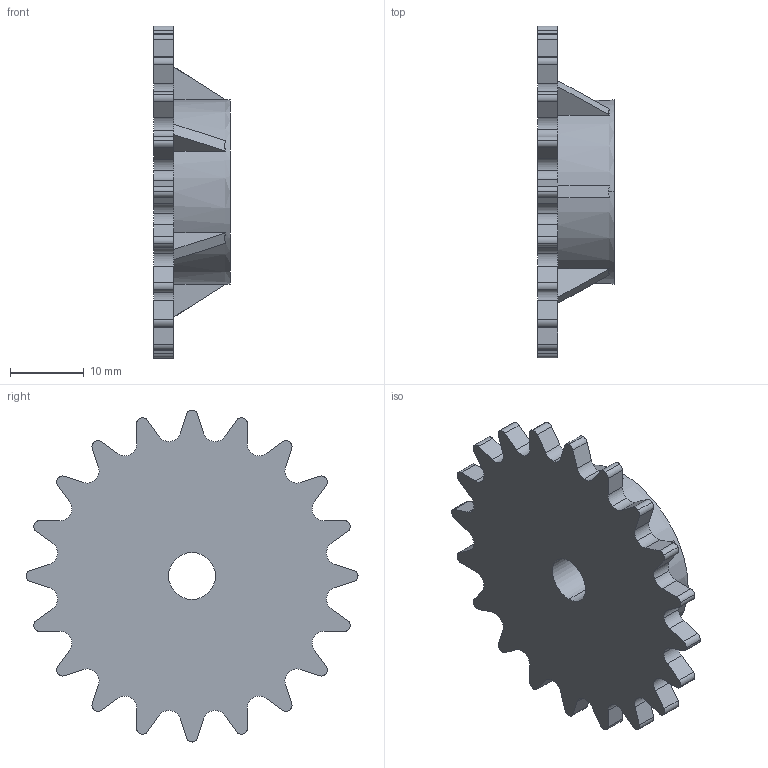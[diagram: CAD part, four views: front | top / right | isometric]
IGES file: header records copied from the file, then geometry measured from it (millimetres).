
Global section: file name: C:\Documents and Settings\Administrator\Desktop\Transfer Temp\rcs-20.igs; native system: AutoDesk Inventor R2.0 ; preprocessor: AutoDesk Inventor Iges Exporter R2.0; author: No Author specified; organization: No Organization specified; date: 20011229.131920; units: inch
Bounding box: 10.34 x 45.09 x 45.09 mm (x, y, z)
Surface area: 4067 mm2 (no closed solid volume)
Topology: 0 solids, 0 shells, 145 faces, 852 edges, 852 vertices
Faces by surface type: revolution 84, bspline 61
